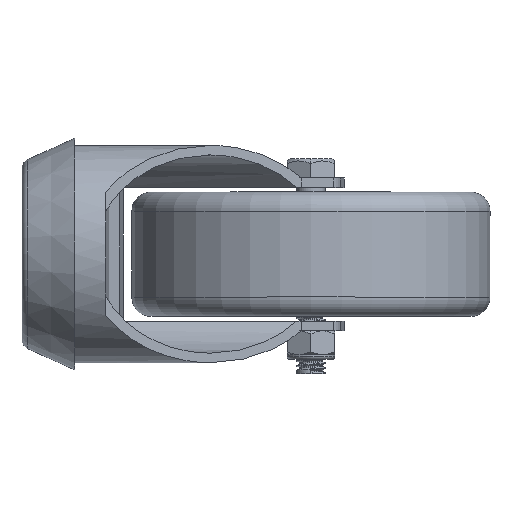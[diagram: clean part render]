
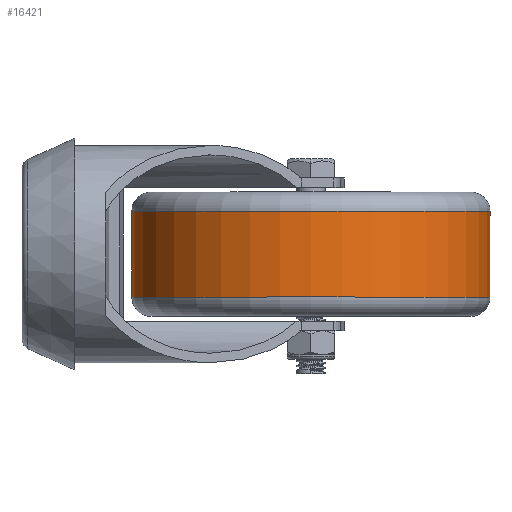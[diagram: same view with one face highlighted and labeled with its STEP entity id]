
A CAD part, left-side view. The second image highlights one B-rep face of the part: STEP entity #16421.
In plain terms, the highlighted cylindrical face has radius 37.5 mm (diameter 75 mm), a partial arc.
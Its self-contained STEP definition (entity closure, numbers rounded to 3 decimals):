
#1616 = CARTESIAN_POINT ( 'NONE',  ( 0., 0., -37.5 ) ) ;
#2023 = CYLINDRICAL_SURFACE ( 'NONE', #14615, 37.5 ) ;
#2839 = CIRCLE ( 'NONE', #20450, 37.5 ) ;
#3085 = DIRECTION ( 'NONE',  ( 0., 0., -1. ) ) ;
#3105 = EDGE_CURVE ( 'NONE', #26376, #27209, #13416, .T. ) ;
#4306 = DIRECTION ( 'NONE',  ( 0., 0., 1. ) ) ;
#4694 = ORIENTED_EDGE ( 'NONE', *, *, #3105, .T. ) ;
#5285 = CARTESIAN_POINT ( 'NONE',  ( 0., 0., 0. ) ) ;
#5597 = VECTOR ( 'NONE', #8690, 1000. ) ;
#5671 = DIRECTION ( 'NONE',  ( 0., 0., -1. ) ) ;
#7721 = EDGE_CURVE ( 'NONE', #25568, #11403, #22624, .T. ) ;
#8690 = DIRECTION ( 'NONE',  ( 0., -1., 0. ) ) ;
#8973 = CARTESIAN_POINT ( 'NONE',  ( 0., -9., 37.5 ) ) ;
#9606 = EDGE_LOOP ( 'NONE', ( #28431, #10222, #4694, #19372 ) ) ;
#10222 = ORIENTED_EDGE ( 'NONE', *, *, #11167, .T. ) ;
#10932 = DIRECTION ( 'NONE',  ( 0., -1., 0. ) ) ;
#11167 = EDGE_CURVE ( 'NONE', #25568, #26376, #14805, .T. ) ;
#11403 = VERTEX_POINT ( 'NONE', #8973 ) ;
#13416 = LINE ( 'NONE', #1616, #5597 ) ;
#14053 = CARTESIAN_POINT ( 'NONE',  ( 0., 9., 0. ) ) ;
#14615 = AXIS2_PLACEMENT_3D ( 'NONE', #5285, #17569, #3085 ) ;
#14805 = CIRCLE ( 'NONE', #20337, 37.5 ) ;
#14834 = DIRECTION ( 'NONE',  ( 0., 1., 0. ) ) ;
#16421 = ADVANCED_FACE ( 'NONE', ( #28959 ), #2023, .T. ) ;
#17028 = CARTESIAN_POINT ( 'NONE',  ( 0., 9., -37.5 ) ) ;
#17569 = DIRECTION ( 'NONE',  ( 0., -1., 0. ) ) ;
#18484 = CARTESIAN_POINT ( 'NONE',  ( 0., -9., -37.5 ) ) ;
#19372 = ORIENTED_EDGE ( 'NONE', *, *, #27546, .T. ) ;
#20337 = AXIS2_PLACEMENT_3D ( 'NONE', #14053, #31077, #4306 ) ;
#20450 = AXIS2_PLACEMENT_3D ( 'NONE', #29810, #14834, #5671 ) ;
#22624 = LINE ( 'NONE', #24993, #29850 ) ;
#23762 = CARTESIAN_POINT ( 'NONE',  ( 0., 9., 37.5 ) ) ;
#24993 = CARTESIAN_POINT ( 'NONE',  ( 0., 0., 37.5 ) ) ;
#25568 = VERTEX_POINT ( 'NONE', #23762 ) ;
#26376 = VERTEX_POINT ( 'NONE', #17028 ) ;
#27209 = VERTEX_POINT ( 'NONE', #18484 ) ;
#27546 = EDGE_CURVE ( 'NONE', #27209, #11403, #2839, .T. ) ;
#28431 = ORIENTED_EDGE ( 'NONE', *, *, #7721, .F. ) ;
#28959 = FACE_OUTER_BOUND ( 'NONE', #9606, .T. ) ;
#29810 = CARTESIAN_POINT ( 'NONE',  ( 0., -9., 0. ) ) ;
#29850 = VECTOR ( 'NONE', #10932, 1000. ) ;
#31077 = DIRECTION ( 'NONE',  ( 0., -1., 0. ) ) ;
